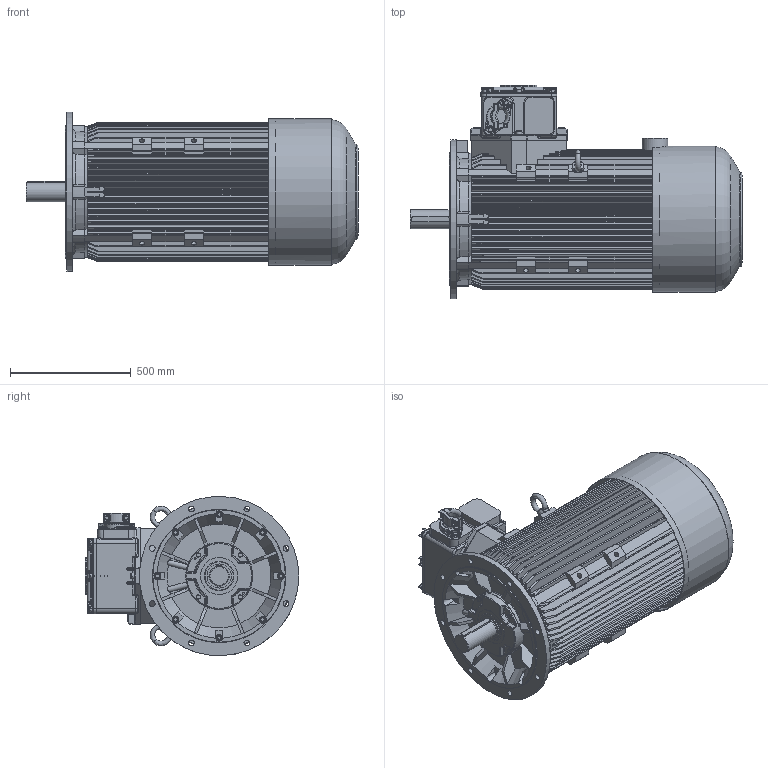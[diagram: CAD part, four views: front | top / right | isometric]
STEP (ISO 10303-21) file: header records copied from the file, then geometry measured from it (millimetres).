
FILE_DESCRIPTION(/* description */ ('Unknown'),/* implementation_level */ '2;1');
FILE_NAME(/* name */ 'EcSTKe(b)315M4(A,B), M(6,8)B-N-IE(2,3)',/* time_stamp */ '2022-04-19T14:24:22+02:00',/* author */ ('Unknown'),/* organization */ ('Unknown'),/* preprocessor_version */ 'ST-DEVELOPER v16.7',/* originating_system */ 'DEX',/* authorisation */ $);
FILE_SCHEMA (('AUTOMOTIVE_DESIGN {1 0 10303 214 3 1 1}'));
Products named in the file (1): EcSTKe(b)315M4(A,B), M(6,8)B-N-IE(2,3)
Bounding box: 1375.49 x 885 x 659.67 mm (x, y, z)
Volume: 301351379.8 mm3; surface area: 7542017.7 mm2
Topology: 1 solids, 64 shells, 3025 faces, 7660 edges, 4787 vertices
Faces by surface type: plane 1171, cylinder 952, cone 318, torus 309, bspline 208, sphere 67
Full cylindrical faces by diameter (mm): 2.459 x2, 3.2 x2, 4.5 x1, 6 x1, 6.3 x1, 6.647 x4, 8.16 x4, 8.376 x8, 10 x10, 11 x7, 12 x3, 13.546 x12, 13.835 x14, 14.63 x8, 16 x25, 17.5 x12, 18 x8, 20.752 x8, 24 x20, 26 x8, 62 x1, 67 x1, 80 x1, 81.5 x1, 82 x1, 87 x1, 100 x1, 106 x1, 150 x1, 153.6 x1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
Entity records: 118384 total; most frequent: CARTESIAN_POINT 27556, DIRECTION 14652, ORIENTED_EDGE 14200, EDGE_CURVE 7100, AXIS2_PLACEMENT_3D 5707, VERTEX_POINT 4622, FACE_BOUND 3520, EDGE_LOOP 3496
